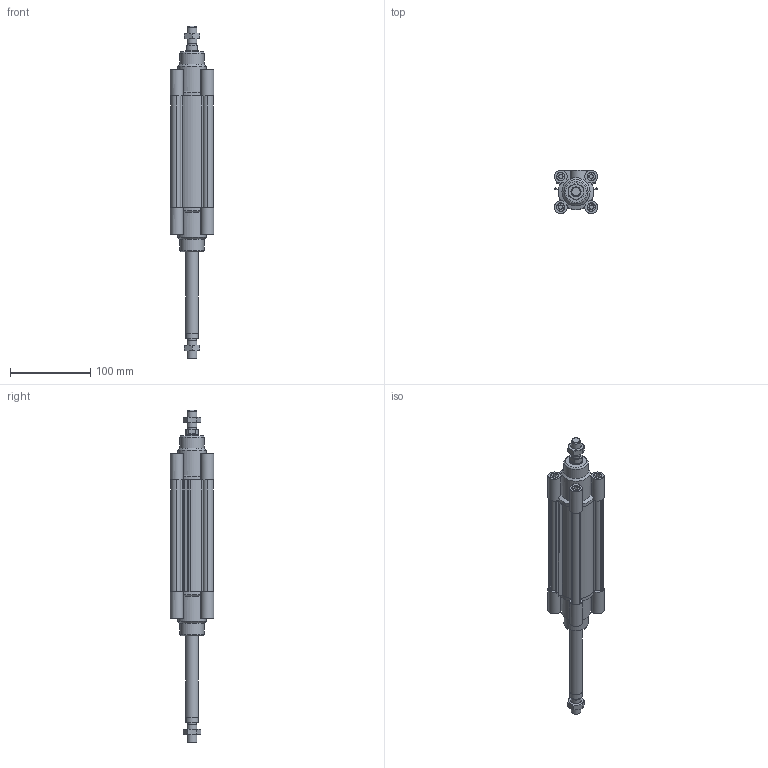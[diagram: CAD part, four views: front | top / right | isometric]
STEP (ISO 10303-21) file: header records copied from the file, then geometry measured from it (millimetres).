
FILE_DESCRIPTION((''),'2;1');
FILE_NAME('I:\Area Tecnica\Disegni\VARIE-3D\Componenti\ECOLIGHT\02\stp\139#_40_0100_02.iam.stp','2012-01-28T09:38:16',(''),(''),'Autodesk Inventor 2012','Autodesk Inventor 2012','');
FILE_SCHEMA(('AUTOMOTIVE_DESIGN { 1 0 10303 214 1 1 1 1 }'));
Length unit declared in the file: millimetre
Products named in the file (5): 139#_40_0100_02; CPL040_004-100; CPL040-001-01; CPL_40SP_0100; 1320_40_18F
Assembly tree (6 placements, depth 2):
  139#_40_0100_02
    CPL040_004-100
    CPL040-001-01  x2
    CPL_40SP_0100
    1320_40_18F  x2
Bounding box: 54 x 54 x 413 mm (x, y, z)
Volume: 352373.2 mm3; surface area: 143317.4 mm2
Topology: 6 solids, 6 shells, 351 faces, 860 edges, 564 vertices
Faces by surface type: plane 211, cylinder 98, cone 40, torus 2
Full cylindrical faces by diameter (mm): 5 x8, 5.5 x4, 8 x2, 10 x8, 10.5 x10, 10.8 x2, 11.6 x2, 12 x2, 15.5 x2, 16 x4, 30 x2, 35 x2, 40 x4
Entity records: 7104 total; most frequent: CARTESIAN_POINT 1295, DIRECTION 1162, ORIENTED_EDGE 1084, EDGE_CURVE 542, AXIS2_PLACEMENT_3D 413, VERTEX_POINT 380, VECTOR 336, LINE 336
